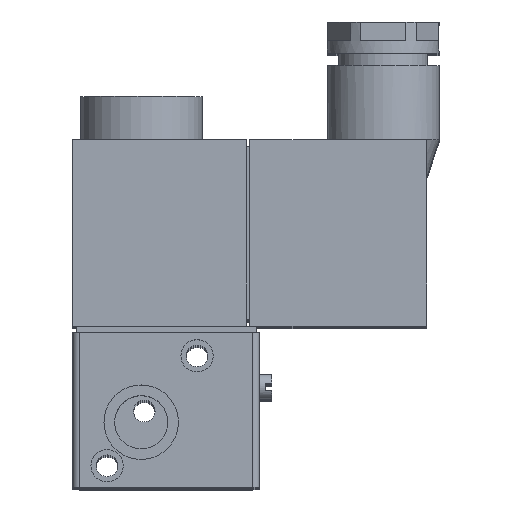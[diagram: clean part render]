
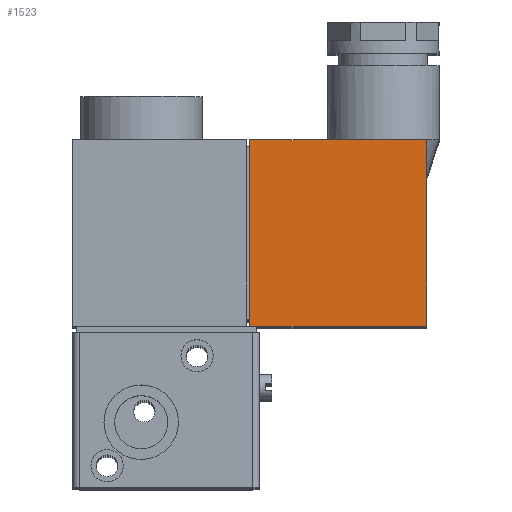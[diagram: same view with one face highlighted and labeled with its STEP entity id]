
A CAD part, top view. The second image highlights one B-rep face of the part: STEP entity #1523.
In plain terms, the highlighted planar face has unit normal (0, 0, 1).
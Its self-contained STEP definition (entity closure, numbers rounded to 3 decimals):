
#227=FACE_OUTER_BOUND('',#340,.T.);
#340=EDGE_LOOP('',(#1282,#1283,#1284,#1285));
#426=LINE('',#2542,#547);
#456=LINE('',#2606,#577);
#458=LINE('',#2612,#579);
#459=LINE('',#2614,#580);
#547=VECTOR('',#2072,1000.);
#577=VECTOR('',#2126,1000.);
#579=VECTOR('',#2134,1000.);
#580=VECTOR('',#2137,1000.);
#756=VERTEX_POINT('',#2539);
#757=VERTEX_POINT('',#2541);
#777=VERTEX_POINT('',#2600);
#779=VERTEX_POINT('',#2604);
#920=EDGE_CURVE('',#756,#757,#426,.T.);
#951=EDGE_CURVE('',#777,#779,#456,.T.);
#955=EDGE_CURVE('',#756,#777,#458,.T.);
#956=EDGE_CURVE('',#757,#779,#459,.T.);
#1282=ORIENTED_EDGE('',*,*,#951,.T.);
#1283=ORIENTED_EDGE('',*,*,#956,.F.);
#1284=ORIENTED_EDGE('',*,*,#920,.F.);
#1285=ORIENTED_EDGE('',*,*,#955,.T.);
#1439=PLANE('',#1738);
#1523=ADVANCED_FACE('',(#227),#1439,.F.);
#1738=AXIS2_PLACEMENT_3D('',#2613,#2135,#2136);
#2072=DIRECTION('',(0.,-1.,0.));
#2126=DIRECTION('',(0.,-1.,0.));
#2134=DIRECTION('',(-1.,0.,0.));
#2135=DIRECTION('center_axis',(0.,0.,-1.));
#2136=DIRECTION('ref_axis',(-1.,0.,0.));
#2137=DIRECTION('',(-1.,0.,0.));
#2539=CARTESIAN_POINT('',(57.,30.,22.));
#2541=CARTESIAN_POINT('',(57.,0.,22.));
#2542=CARTESIAN_POINT('',(57.,30.,22.));
#2600=CARTESIAN_POINT('',(28.5,30.,22.));
#2604=CARTESIAN_POINT('',(28.5,0.,22.));
#2606=CARTESIAN_POINT('',(28.5,30.,22.));
#2612=CARTESIAN_POINT('',(57.,30.,22.));
#2613=CARTESIAN_POINT('Origin',(57.,30.,22.));
#2614=CARTESIAN_POINT('',(57.,0.,22.));
